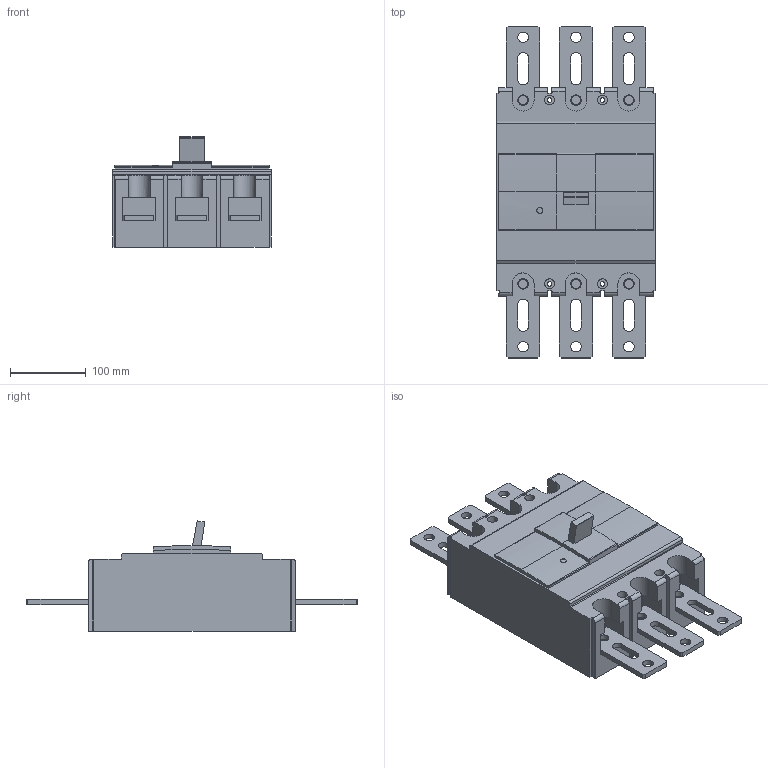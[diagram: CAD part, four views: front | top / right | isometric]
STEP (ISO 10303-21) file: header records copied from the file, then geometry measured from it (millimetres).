
FILE_DESCRIPTION (( 'STEP AP203' ), '1' );
FILE_NAME ('600N 3P.STEP', '2018-01-04T00:54:51', ( '' ), ( '' ), 'SwSTEP 2.0', 'SolidWorks 2015', '' );
FILE_SCHEMA (( 'CONFIG_CONTROL_DESIGN' ));
Length unit declared in the file: millimetre
Products named in the file (1): 600N 3P
Bounding box: 210 x 439 x 145.77 mm (x, y, z)
Volume: 5626937.8 mm3; surface area: 337124.7 mm2
Topology: 7 solids, 7 shells, 329 faces, 903 edges, 602 vertices
Faces by surface type: plane 184, cylinder 145
Entity records: 10878 total; most frequent: CARTESIAN_POINT 2241, ORIENTED_EDGE 1806, DIRECTION 1754, EDGE_CURVE 903, VERTEX_POINT 602, LINE 596, VECTOR 596, AXIS2_PLACEMENT_3D 579
